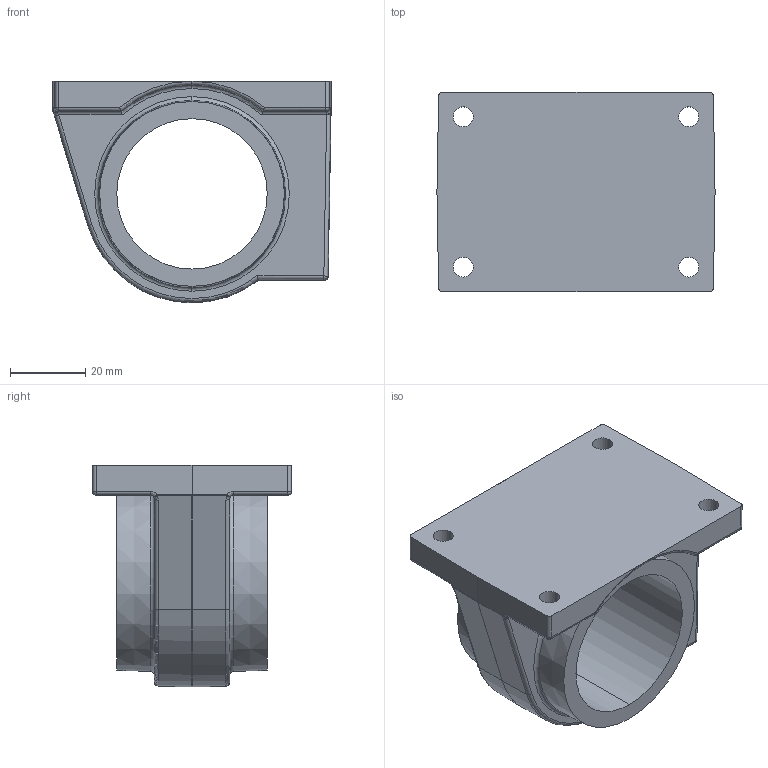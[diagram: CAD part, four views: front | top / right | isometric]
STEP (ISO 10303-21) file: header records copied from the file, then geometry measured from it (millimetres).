
FILE_DESCRIPTION (( 'STEP AP203' ), '1' );
FILE_NAME ('KGG65-25.step', '2020-03-10T15:21:44', ( '' ), ( '' ), 'SwSTEP 2.0', 'SolidWorks 2019', '' );
FILE_SCHEMA (( 'CONFIG_CONTROL_DESIGN' ));
Length unit declared in the file: millimetre
Products named in the file (2): KGG65-25
Bounding box: 73.98 x 53 x 59 mm (x, y, z)
Volume: 74546.4 mm3; surface area: 23190.2 mm2
Topology: 1 solids, 1 shells, 121 faces, 289 edges, 170 vertices
Faces by surface type: cylinder 50, plane 31, torus 16, sphere 9, bspline 8, cone 7
Entity records: 3904 total; most frequent: CARTESIAN_POINT 999, DIRECTION 598, ORIENTED_EDGE 574, EDGE_CURVE 287, AXIS2_PLACEMENT_3D 245, VERTEX_POINT 170, EDGE_LOOP 133, CIRCLE 130
